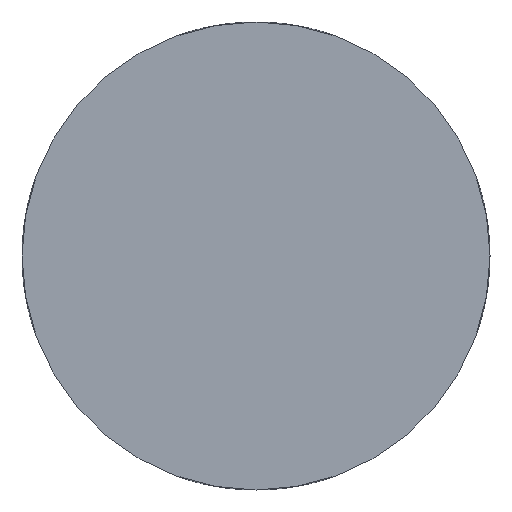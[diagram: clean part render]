
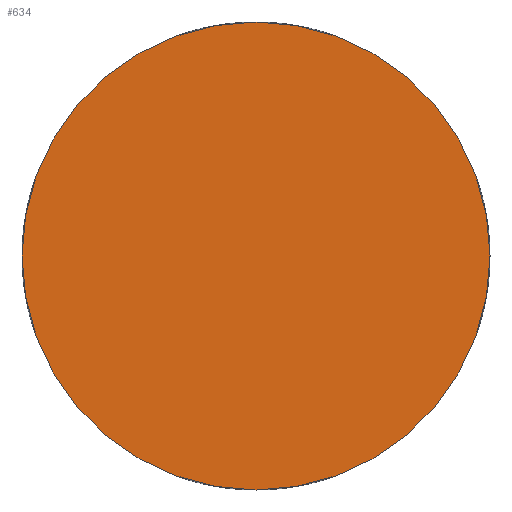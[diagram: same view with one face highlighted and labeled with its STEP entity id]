
A CAD part, left-side view. The second image highlights one B-rep face of the part: STEP entity #634.
In plain terms, the highlighted planar face has unit normal (-1, 0, 0).
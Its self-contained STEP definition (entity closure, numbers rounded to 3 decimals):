
#39=PLANE('',#735);
#63=FACE_OUTER_BOUND('',#98,.T.);
#98=EDGE_LOOP('',(#543,#544));
#156=CIRCLE('',#736,2.745);
#157=CIRCLE('',#737,2.745);
#281=VERTEX_POINT('',#1285);
#282=VERTEX_POINT('',#1286);
#373=EDGE_CURVE('',#281,#282,#156,.T.);
#374=EDGE_CURVE('',#282,#281,#157,.T.);
#543=ORIENTED_EDGE('',*,*,#373,.F.);
#544=ORIENTED_EDGE('',*,*,#374,.F.);
#634=ADVANCED_FACE('',(#63),#39,.T.);
#735=AXIS2_PLACEMENT_3D('',#1284,#927,#928);
#736=AXIS2_PLACEMENT_3D('',#1287,#929,#930);
#737=AXIS2_PLACEMENT_3D('',#1288,#931,#932);
#927=DIRECTION('center_axis',(-1.,0.,0.));
#928=DIRECTION('ref_axis',(0.,0.,1.));
#929=DIRECTION('center_axis',(1.,0.,0.));
#930=DIRECTION('ref_axis',(0.,0.,-1.));
#931=DIRECTION('center_axis',(1.,0.,0.));
#932=DIRECTION('ref_axis',(0.,0.,-1.));
#1284=CARTESIAN_POINT('Origin',(0.,2.745,0.));
#1285=CARTESIAN_POINT('',(0.,2.745,0.));
#1286=CARTESIAN_POINT('',(0.,-2.745,0.));
#1287=CARTESIAN_POINT('Origin',(0.,0.,0.));
#1288=CARTESIAN_POINT('Origin',(0.,0.,0.));
